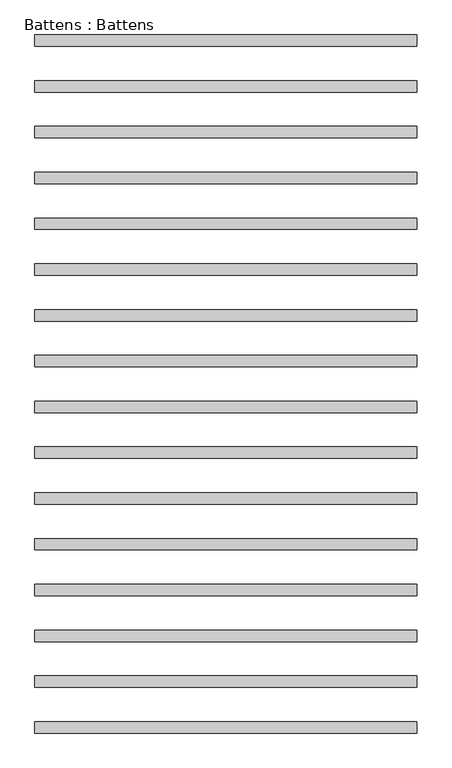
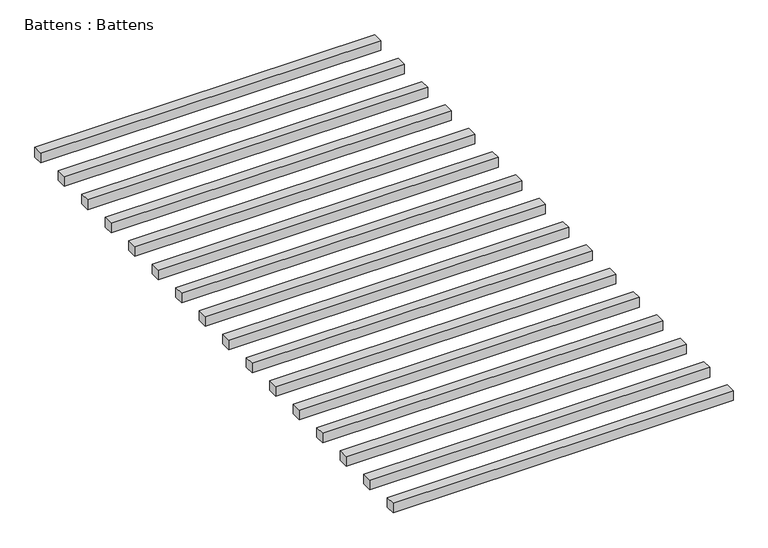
"""IFC4 building model written with IfcOpenShell, lengths in millimetres: proxy geometry, Battens : Battens."""

import ifcopenshell
import ifcopenshell.guid

model = None  # the IFC model being written
_history = None  # IfcOwnerHistory: only IFC2X3 demands one
_inside = {}  # id of a spatial element -> (the spatial element, [elements in it])
_under = {}  # id of a project, library or spatial element -> (it, [spatial elements below it])
_declared = {}  # id of a project -> (the project, [libraries it declares])
_typed = {}  # id of a type object -> (the type object, [elements of that type])
_made_of = {}  # id of a material, layer set ... -> (it, [elements and type objects made of it])


def new_model(schema):
    """Start an empty IFC model of exactly this schema.

    Asked for "IFC4X3", IfcOpenShell would pick the latest addendum, in which some entities
    have other attributes; the version numbers below select the first issue.
    IFC2X3 requires an IfcOwnerHistory on every rooted entity: one is made here for all.
    """
    global model, _history
    if schema == "IFC4X3":
        model = ifcopenshell.file(schema_version=(4, 3, 0, 0))
    else:
        model = ifcopenshell.file(schema=schema)
    _inside.clear()
    _under.clear()
    _declared.clear()
    _typed.clear()
    _made_of.clear()
    _history = None
    if model.schema == "IFC2X3":
        org = make("IfcOrganization", Name="unknown")
        user = make(
            "IfcPersonAndOrganization",
            ThePerson=make("IfcPerson", FamilyName="unknown"),
            TheOrganization=org,
        )
        app = make(
            "IfcApplication",
            ApplicationDeveloper=org,
            Version="unknown",
            ApplicationFullName="unknown",
            ApplicationIdentifier="unknown",
        )
        _history = make(
            "IfcOwnerHistory",
            OwningUser=user,
            OwningApplication=app,
            ChangeAction="ADDED",
            CreationDate=0,
        )
    return model


def make(cls, **values):
    """One entity of the class cls with the attributes given. An attribute that is None is left unset."""
    return model.create_entity(
        cls, **{name: value for name, value in values.items() if value is not None}
    )


def rooted(cls, **values):
    """An entity with a GlobalId (a new one), such as an element, a storey or a relation."""
    return make(cls, GlobalId=ifcopenshell.guid.new(), OwnerHistory=_history, **values)


def si_unit(unit_type, name, prefix=None):
    """IfcSIUnit, for example si_unit("LENGTHUNIT", "METRE", prefix="MILLI")."""
    return make("IfcSIUnit", UnitType=unit_type, Prefix=prefix, Name=name)


def assignment(units):
    """IfcUnitAssignment: the units of a project."""
    return None if units is None else make("IfcUnitAssignment", Units=units)


def point(xyz):
    """IfcCartesianPoint."""
    return None if xyz is None else make("IfcCartesianPoint", Coordinates=xyz)


def direction(xyz):
    """IfcDirection."""
    return None if xyz is None else make("IfcDirection", DirectionRatios=xyz)


def frame(location, z_axis=None, x_axis=None):
    """IfcAxis2Placement3D, a coordinate frame: its origin and axes. An axis left out is left unset."""
    return make(
        "IfcAxis2Placement3D",
        Location=point(location),
        Axis=direction(z_axis),
        RefDirection=direction(x_axis),
    )


def origin():
    """The frame at (0, 0, 0) with its axes left unset."""
    return frame((0.0, 0.0, 0.0))


def origin_with_axes():
    """The frame at (0, 0, 0) with the z axis (0, 0, 1) and the x axis (1, 0, 0) written out."""
    return frame((0.0, 0.0, 0.0), z_axis=(0.0, 0.0, 1.0), x_axis=(1.0, 0.0, 0.0))


def place(relative_to, where):
    """IfcLocalPlacement: puts the frame where relative to a parent placement (None: the world)."""
    return make(
        "IfcLocalPlacement", PlacementRelTo=relative_to, RelativePlacement=where
    )


def context(
    kind, dimensions, precision=None, world=None, true_north=None, identifier=None
):
    """IfcGeometricRepresentationContext, for example the 3D "Model" context."""
    return make(
        "IfcGeometricRepresentationContext",
        ContextIdentifier=identifier,
        ContextType=kind,
        CoordinateSpaceDimension=dimensions,
        Precision=precision,
        WorldCoordinateSystem=world,
        TrueNorth=true_north,
    )


def project(units=None, contexts=None):
    """IfcProject with its units and contexts."""
    return rooted(
        "IfcProject",
        Name="project",
        RepresentationContexts=contexts,
        UnitsInContext=assignment(units),
    )


def spatial(cls, under=None, at=None, **own):
    """A site, building, storey or space (cls), placed at a placement, below another one or the project."""
    s = rooted(cls, ObjectPlacement=at, **own)
    if under is not None:
        _under.setdefault(under.id(), (under, []))[1].append(s)
    return s


def polyline(points):
    """IfcPolyline through the points."""
    return make("IfcPolyline", Points=[point(p) for p in points])


def outline(outer, holes=None, kind="AREA"):
    """IfcArbitraryClosedProfileDef: a profile drawn as a closed curve; with holes, ...WithVoids."""
    if holes is None:
        return make("IfcArbitraryClosedProfileDef", ProfileType=kind, OuterCurve=outer)
    return make(
        "IfcArbitraryProfileDefWithVoids",
        ProfileType=kind,
        OuterCurve=outer,
        InnerCurves=holes,
    )


def extrude(swept, where, along, depth):
    """IfcExtrudedAreaSolid: the profile swept, set in the frame where, extruded along a direction by depth."""
    return make(
        "IfcExtrudedAreaSolid",
        SweptArea=swept,
        Position=where,
        ExtrudedDirection=direction(along),
        Depth=depth,
    )


def shape(context_of_items, identifier, shape_type, items):
    """IfcShapeRepresentation: the items that make up one representation, for example the "Body"."""
    return make(
        "IfcShapeRepresentation",
        ContextOfItems=context_of_items,
        RepresentationIdentifier=identifier,
        RepresentationType=shape_type,
        Items=items,
    )


def source(mapping_origin, context_of_items, identifier, shape_type, items):
    """IfcRepresentationMap: a shape defined once, which mapped items show again and again."""
    return make(
        "IfcRepresentationMap",
        MappingOrigin=mapping_origin,
        MappedRepresentation=shape(context_of_items, identifier, shape_type, items),
    )


def transform(
    local_origin,
    x_axis=None,
    y_axis=None,
    z_axis=None,
    scale=None,
    scale2=None,
    scale3=None,
    uniform=True,
):
    """IfcCartesianTransformationOperator3D, or its non-uniform kind. x_axis, y_axis, z_axis: its Axis1, 2, 3."""
    if uniform:
        return make(
            "IfcCartesianTransformationOperator3D",
            Axis1=direction(x_axis),
            Axis2=direction(y_axis),
            LocalOrigin=point(local_origin),
            Scale=scale,
            Axis3=direction(z_axis),
        )
    return make(
        "IfcCartesianTransformationOperator3DnonUniform",
        Axis1=direction(x_axis),
        Axis2=direction(y_axis),
        LocalOrigin=point(local_origin),
        Scale=scale,
        Axis3=direction(z_axis),
        Scale2=scale2,
        Scale3=scale3,
    )


def mapped(mapping_source, mapping_target):
    """IfcMappedItem: shows the shape of a source again, moved by a transform."""
    return make(
        "IfcMappedItem", MappingSource=mapping_source, MappingTarget=mapping_target
    )


def made_of(thing, what):
    """Note that an element or type object is made of a material, layer set ...; save() writes the relation."""
    if what is not None:
        _made_of.setdefault(what.id(), (what, []))[1].append(thing)
    return thing


def element(
    cls,
    number,
    at=None,
    inside=None,
    cuts=None,
    type_object=None,
    material=None,
    context=None,
    identifier="Body",
    shape_type=None,
    held_by="IfcProductDefinitionShape",
    body=None,
    shapes=None,
    **own,
):
    """One element of the class cls, such as IfcWall. Its Tag is "e" and its number.

    at: its placement. inside: the storey or other place that contains it. cuts: it is an
    opening in that element (IfcRelVoidsElement). A single representation is given by context,
    identifier, shape_type and body (its items); several are given by shapes. held_by: the class
    of the entity that holds the representations. save() writes the other relations.
    """
    e = rooted(cls, Tag="e%d" % number, ObjectPlacement=at, **own)
    if body is not None:
        shapes = [shape(context, identifier, shape_type, body)]
    if shapes is not None:
        e.Representation = make(held_by, Representations=shapes)
    if inside is not None:
        _inside.setdefault(inside.id(), (inside, []))[1].append(e)
    if cuts is not None:
        rooted(
            "IfcRelVoidsElement", RelatingBuildingElement=cuts, RelatedOpeningElement=e
        )
    if type_object is not None:
        _typed.setdefault(type_object.id(), (type_object, []))[1].append(e)
    return made_of(e, material)


def aggregate(whole, parts):
    """IfcRelAggregates: a whole, such as a stair, and the parts it consists of."""
    return rooted("IfcRelAggregates", RelatingObject=whole, RelatedObjects=parts)


def save(model, path):
    """Write the relations noted so far, then the file.

    IfcRelAggregates (storeys below a building ...), IfcRelContainedInSpatialStructure (elements
    in a storey), IfcRelDefinesByType, IfcRelAssociatesMaterial and IfcRelDeclares: one each for
    every whole, place, type object, material and project.
    """
    for whole, parts in _under.values():
        aggregate(whole, parts)
    for where, things in _inside.values():
        rooted(
            "IfcRelContainedInSpatialStructure",
            RelatedElements=things,
            RelatingStructure=where,
        )
    for kind, things in _typed.values():
        rooted("IfcRelDefinesByType", RelatedObjects=things, RelatingType=kind)
    for what, things in _made_of.values():
        rooted("IfcRelAssociatesMaterial", RelatedObjects=things, RelatingMaterial=what)
    for by, libraries in _declared.values():
        rooted("IfcRelDeclares", RelatingContext=by, RelatedDefinitions=libraries)
    model.write(path)


def battens_battens_bb6d5e07(model_context):
    return source(origin(), model_context, "Body", "SweptSolid", [
        extrude(outline(polyline([(1337.0, -2380.0), (1337.0, -2420.0), (0.0, -2420.0), (0.0, -2380.0), (1337.0, -2380.0)])), origin_with_axes(), (0.0, 0.0, 1.0), 40.0),
        extrude(outline(polyline([(1337.0, -2220.0), (1337.0, -2260.0), (0.0, -2260.0), (0.0, -2220.0), (1337.0, -2220.0)])), origin_with_axes(), (0.0, 0.0, 1.0), 40.0),
        extrude(outline(polyline([(1337.0, -2060.0), (1337.0, -2100.0), (0.0, -2100.0), (0.0, -2060.0), (1337.0, -2060.0)])), origin_with_axes(), (0.0, 0.0, 1.0), 40.0),
        extrude(outline(polyline([(1337.0, -1900.0), (1337.0, -1940.0), (0.0, -1940.0), (0.0, -1900.0), (1337.0, -1900.0)])), origin_with_axes(), (0.0, 0.0, 1.0), 40.0),
        extrude(outline(polyline([(1337.0, -1740.0), (1337.0, -1780.0), (0.0, -1780.0), (0.0, -1740.0), (1337.0, -1740.0)])), origin_with_axes(), (0.0, 0.0, 1.0), 40.0),
        extrude(outline(polyline([(1337.0, -1580.0), (1337.0, -1620.0), (0.0, -1620.0), (0.0, -1580.0), (1337.0, -1580.0)])), origin_with_axes(), (0.0, 0.0, 1.0), 40.0),
        extrude(outline(polyline([(1337.0, -1420.0), (1337.0, -1460.0), (0.0, -1460.0), (0.0, -1420.0), (1337.0, -1420.0)])), origin_with_axes(), (0.0, 0.0, 1.0), 40.0),
        extrude(outline(polyline([(1337.0, -1260.0), (1337.0, -1300.0), (0.0, -1300.0), (0.0, -1260.0), (1337.0, -1260.0)])), origin_with_axes(), (0.0, 0.0, 1.0), 40.0),
        extrude(outline(polyline([(1337.0, -1100.0), (1337.0, -1140.0), (0.0, -1140.0), (0.0, -1100.0), (1337.0, -1100.0)])), origin_with_axes(), (0.0, 0.0, 1.0), 40.0),
        extrude(outline(polyline([(1337.0, -940.0), (1337.0, -980.0), (0.0, -980.0), (0.0, -940.0), (1337.0, -940.0)])), origin_with_axes(), (0.0, 0.0, 1.0), 40.0),
        extrude(outline(polyline([(1337.0, -780.0), (1337.0, -820.0), (0.0, -820.0), (0.0, -780.0), (1337.0, -780.0)])), origin_with_axes(), (0.0, 0.0, 1.0), 40.0),
        extrude(outline(polyline([(1337.0, -620.0), (1337.0, -660.0), (0.0, -660.0), (0.0, -620.0), (1337.0, -620.0)])), origin_with_axes(), (0.0, 0.0, 1.0), 40.0),
        extrude(outline(polyline([(1337.0, -460.0), (1337.0, -500.0), (0.0, -500.0), (0.0, -460.0), (1337.0, -460.0)])), origin_with_axes(), (0.0, 0.0, 1.0), 40.0),
        extrude(outline(polyline([(1337.0, -300.0), (1337.0, -340.0), (0.0, -340.0), (0.0, -300.0), (1337.0, -300.0)])), origin_with_axes(), (0.0, 0.0, 1.0), 40.0),
        extrude(outline(polyline([(1337.0, -140.0), (1337.0, -180.0), (0.0, -180.0), (0.0, -140.0), (1337.0, -140.0)])), origin_with_axes(), (0.0, 0.0, 1.0), 40.0),
        extrude(outline(polyline([(1337.0, 20.0), (1337.0, -20.0), (0.0, -20.0), (0.0, 20.0), (1337.0, 20.0)])), origin_with_axes(), (0.0, 0.0, 1.0), 40.0),
    ])


if __name__ == "__main__":
    model = new_model("IFC4")
    model_context = context("Model", 3, world=origin())
    ifc_project = project(units=[si_unit("LENGTHUNIT", "METRE", prefix="MILLI")], contexts=[model_context])
    site = spatial("IfcSite", under=ifc_project)
    building = spatial("IfcBuilding", under=site)
    placement = place(None, origin())
    battens_battens_shape = battens_battens_bb6d5e07(model_context)
    element("IfcBuildingElementProxy", 1, Name="Battens : Battens", ObjectType="Battens : Battens", at=placement, inside=building, context=model_context, shape_type="MappedRepresentation", body=[
        mapped(battens_battens_shape, transform((0.0, 0.0, 0.0), x_axis=(1.0, 0.0, 0.0), y_axis=(0.0, 1.0, 0.0), z_axis=(0.0, 0.0, 1.0))),
    ])
    save(model, "model.ifc")
